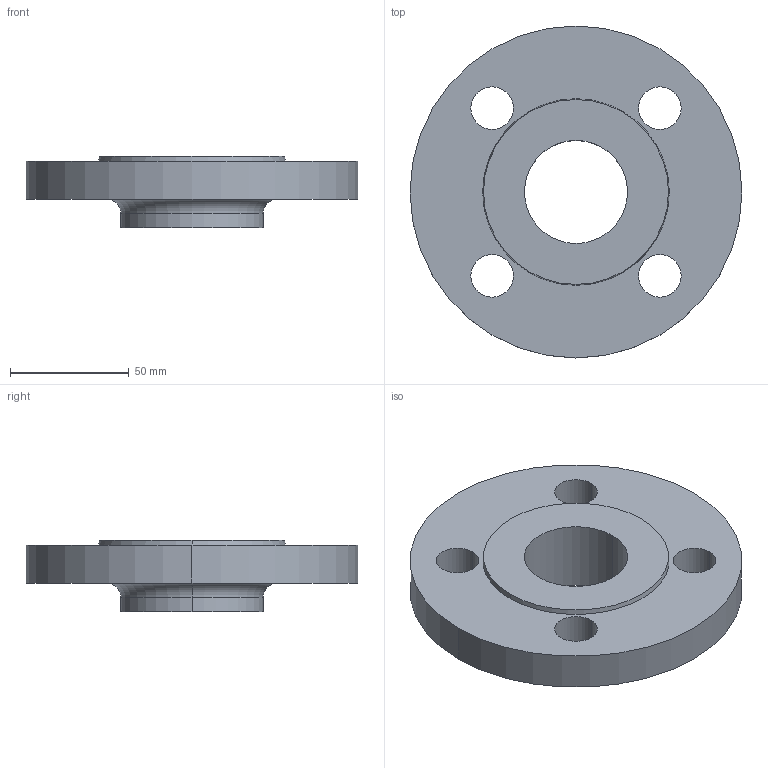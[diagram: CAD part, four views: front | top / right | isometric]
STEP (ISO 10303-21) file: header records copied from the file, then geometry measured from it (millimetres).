
FILE_DESCRIPTION (( 'STEP AP214' ), '1' );
FILE_NAME ('PN40 DN32 Type 12 - Type B Face.STEP', '2018-12-29T23:57:53', ( '' ), ( '' ), 'SwSTEP 2.0', 'SolidWorks 2019', '' );
FILE_SCHEMA (( 'AUTOMOTIVE_DESIGN' ));
Length unit declared in the file: millimetre
Products named in the file (1): PN40 DN32 Type 12 - Type B Face
Bounding box: 140 x 140 x 30 mm (x, y, z)
Volume: 230523.7 mm3; surface area: 42741.2 mm2
Topology: 1 solids, 1 shells, 22 faces, 52 edges, 34 vertices
Faces by surface type: cylinder 14, plane 4, torus 2, cone 2
Entity records: 710 total; most frequent: DIRECTION 134, CARTESIAN_POINT 109, ORIENTED_EDGE 104, AXIS2_PLACEMENT_3D 59, EDGE_CURVE 52, CIRCLE 36, EDGE_LOOP 34, VERTEX_POINT 34
